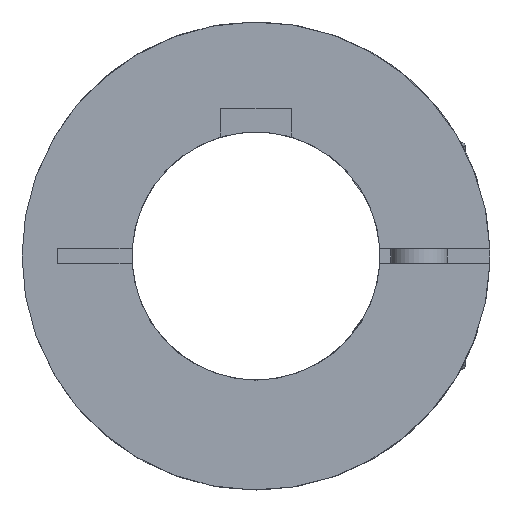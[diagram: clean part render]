
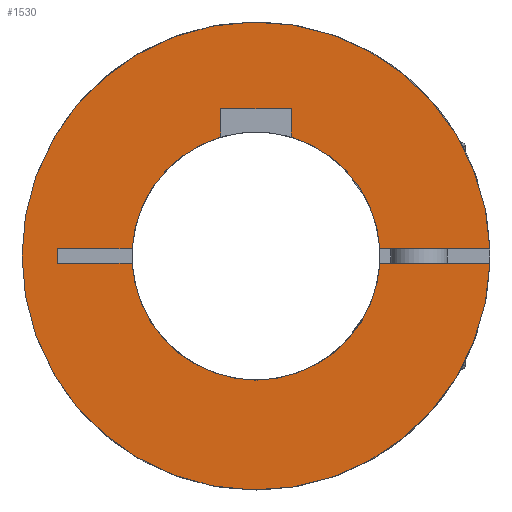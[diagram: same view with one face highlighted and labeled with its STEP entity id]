
A CAD part, left-side view. The second image highlights one B-rep face of the part: STEP entity #1530.
In plain terms, the highlighted planar face has unit normal (-1, 0, 0).
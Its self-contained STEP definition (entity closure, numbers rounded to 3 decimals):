
#33=PLANE('',#1736);
#147=LINE('',#2714,#260);
#150=LINE('',#2720,#263);
#151=LINE('',#2722,#264);
#162=LINE('',#2741,#275);
#165=LINE('',#2748,#278);
#175=LINE('',#2768,#288);
#179=LINE('',#2775,#292);
#183=LINE('',#2782,#296);
#260=VECTOR('',#2075,1.);
#263=VECTOR('',#2080,1.);
#264=VECTOR('',#2083,1.);
#275=VECTOR('',#2102,26.057);
#278=VECTOR('',#2111,26.057);
#288=VECTOR('',#2131,21.072);
#292=VECTOR('',#2137,21.072);
#296=VECTOR('',#2147,2.);
#403=FACE_OUTER_BOUND('',#503,.T.);
#503=EDGE_LOOP('',(#1292,#1293,#1294,#1295,#1296,#1297,#1298,#1299,#1300,
#1301,#1302,#1303));
#641=CIRCLE('',#1700,33.);
#649=CIRCLE('',#1711,17.5);
#652=CIRCLE('',#1715,17.5);
#654=CIRCLE('',#1717,17.5);
#740=VERTEX_POINT('',#2648);
#741=VERTEX_POINT('',#2650);
#755=VERTEX_POINT('',#2683);
#756=VERTEX_POINT('',#2684);
#761=VERTEX_POINT('',#2695);
#762=VERTEX_POINT('',#2697);
#765=VERTEX_POINT('',#2703);
#766=VERTEX_POINT('',#2705);
#768=VERTEX_POINT('',#2712);
#770=VERTEX_POINT('',#2718);
#780=VERTEX_POINT('',#2767);
#782=VERTEX_POINT('',#2773);
#920=EDGE_CURVE('',#741,#740,#641,.T.);
#936=EDGE_CURVE('',#755,#756,#649,.T.);
#942=EDGE_CURVE('',#762,#761,#652,.T.);
#946=EDGE_CURVE('',#766,#765,#654,.T.);
#951=EDGE_CURVE('',#765,#768,#147,.T.);
#954=EDGE_CURVE('',#768,#770,#150,.T.);
#955=EDGE_CURVE('',#770,#762,#151,.T.);
#966=EDGE_CURVE('',#761,#741,#162,.T.);
#969=EDGE_CURVE('',#740,#755,#165,.T.);
#979=EDGE_CURVE('',#780,#766,#175,.T.);
#983=EDGE_CURVE('',#782,#756,#179,.T.);
#987=EDGE_CURVE('',#780,#782,#183,.T.);
#1292=ORIENTED_EDGE('',*,*,#942,.T.);
#1293=ORIENTED_EDGE('',*,*,#966,.T.);
#1294=ORIENTED_EDGE('',*,*,#920,.T.);
#1295=ORIENTED_EDGE('',*,*,#969,.T.);
#1296=ORIENTED_EDGE('',*,*,#936,.T.);
#1297=ORIENTED_EDGE('',*,*,#983,.F.);
#1298=ORIENTED_EDGE('',*,*,#987,.F.);
#1299=ORIENTED_EDGE('',*,*,#979,.T.);
#1300=ORIENTED_EDGE('',*,*,#946,.T.);
#1301=ORIENTED_EDGE('',*,*,#951,.T.);
#1302=ORIENTED_EDGE('',*,*,#954,.T.);
#1303=ORIENTED_EDGE('',*,*,#955,.T.);
#1530=ADVANCED_FACE('',(#403),#33,.T.);
#1700=AXIS2_PLACEMENT_3D('',#2651,#2020,#2021);
#1711=AXIS2_PLACEMENT_3D('',#2685,#2050,#2051);
#1715=AXIS2_PLACEMENT_3D('',#2698,#2061,#2062);
#1717=AXIS2_PLACEMENT_3D('',#2706,#2067,#2068);
#1736=AXIS2_PLACEMENT_3D('',#2781,#2145,#2146);
#2020=DIRECTION('center_axis',(-1.,0.,0.));
#2021=DIRECTION('ref_axis',(0.,1.,0.));
#2050=DIRECTION('center_axis',(1.,0.,0.));
#2051=DIRECTION('ref_axis',(0.,0.,1.));
#2061=DIRECTION('center_axis',(1.,0.,0.));
#2062=DIRECTION('ref_axis',(0.,0.,1.));
#2067=DIRECTION('center_axis',(1.,0.,0.));
#2068=DIRECTION('ref_axis',(0.,0.,1.));
#2075=DIRECTION('',(0.,0.,1.));
#2080=DIRECTION('',(0.,-1.,0.));
#2083=DIRECTION('',(0.,0.,-1.));
#2102=DIRECTION('',(0.,-1.,0.));
#2111=DIRECTION('',(0.,1.,0.));
#2131=DIRECTION('',(0.,-1.,0.));
#2137=DIRECTION('',(0.,-1.,0.));
#2145=DIRECTION('center_axis',(-1.,0.,0.));
#2146=DIRECTION('ref_axis',(0.,-1.,0.));
#2147=DIRECTION('',(0.,0.,-1.));
#2648=CARTESIAN_POINT('',(0.,-32.985,-1.));
#2650=CARTESIAN_POINT('',(0.,-32.985,1.));
#2651=CARTESIAN_POINT('Origin',(0.,0.,0.));
#2683=CARTESIAN_POINT('',(0.,-17.471,-1.));
#2684=CARTESIAN_POINT('',(0.,17.471,-1.));
#2685=CARTESIAN_POINT('Origin',(0.,0.,0.));
#2695=CARTESIAN_POINT('',(0.,-17.471,1.));
#2697=CARTESIAN_POINT('',(0.,-5.,16.771));
#2698=CARTESIAN_POINT('Origin',(0.,0.,0.));
#2703=CARTESIAN_POINT('',(0.,5.,16.771));
#2705=CARTESIAN_POINT('',(0.,17.471,1.));
#2706=CARTESIAN_POINT('Origin',(0.,0.,0.));
#2712=CARTESIAN_POINT('',(0.,5.,20.8));
#2714=CARTESIAN_POINT('',(0.,5.,1.7));
#2718=CARTESIAN_POINT('',(0.,-5.,20.8));
#2720=CARTESIAN_POINT('',(0.,0.,20.8));
#2722=CARTESIAN_POINT('',(0.,-5.,1.7));
#2741=CARTESIAN_POINT('',(0.,-6.928,1.));
#2748=CARTESIAN_POINT('',(0.,-32.985,-1.));
#2767=CARTESIAN_POINT('',(0.,28.,1.));
#2768=CARTESIAN_POINT('',(0.,28.,1.));
#2773=CARTESIAN_POINT('',(0.,28.,-1.));
#2775=CARTESIAN_POINT('',(0.,28.,-1.));
#2781=CARTESIAN_POINT('Origin',(0.,0.,-7.));
#2782=CARTESIAN_POINT('',(0.,28.,1.));
